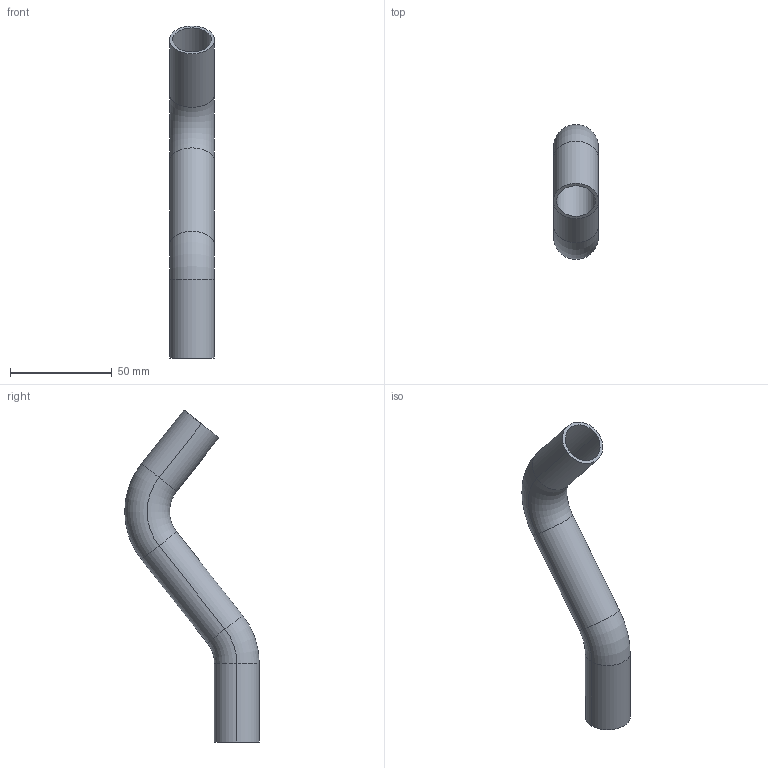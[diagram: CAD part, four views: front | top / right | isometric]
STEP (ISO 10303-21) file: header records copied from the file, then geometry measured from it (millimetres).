
FILE_DESCRIPTION(('OneSpaceDesigner STEP Export'),'2;1');
FILE_NAME('C1417 22x22.stp','2010-06-15T14:40:27',(''),(''),'OneSpace Designer STEP processor for AP214 (Solid Model)','OneSpace Modeling 15.00A 14-Mar-2007 (C) CoCreate Software GmbH','');
FILE_SCHEMA(('AUTOMOTIVE_DESIGN { 1 0 10303 214 1 1 1 1 }'));
Length unit declared in the file: millimetre
Products named in the file (2): C1417_22x22
Assembly tree (1 placements, depth 2):
  C1417_22x22
    C1417_22x22
Bounding box: 22 x 66 x 162.85 mm (x, y, z)
Volume: 17239.9 mm3; surface area: 23179.7 mm2
Topology: 1 solids, 1 shells, 22 faces, 44 edges, 24 vertices
Faces by surface type: cylinder 12, torus 8, plane 2
Entity records: 531 total; most frequent: DIRECTION 88, ORIENTED_EDGE 88, CARTESIAN_POINT 74, EDGE_CURVE 44, AXIS2_PLACEMENT_3D 38, CIRCLE 24, VERTEX_POINT 24, EDGE_LOOP 24
